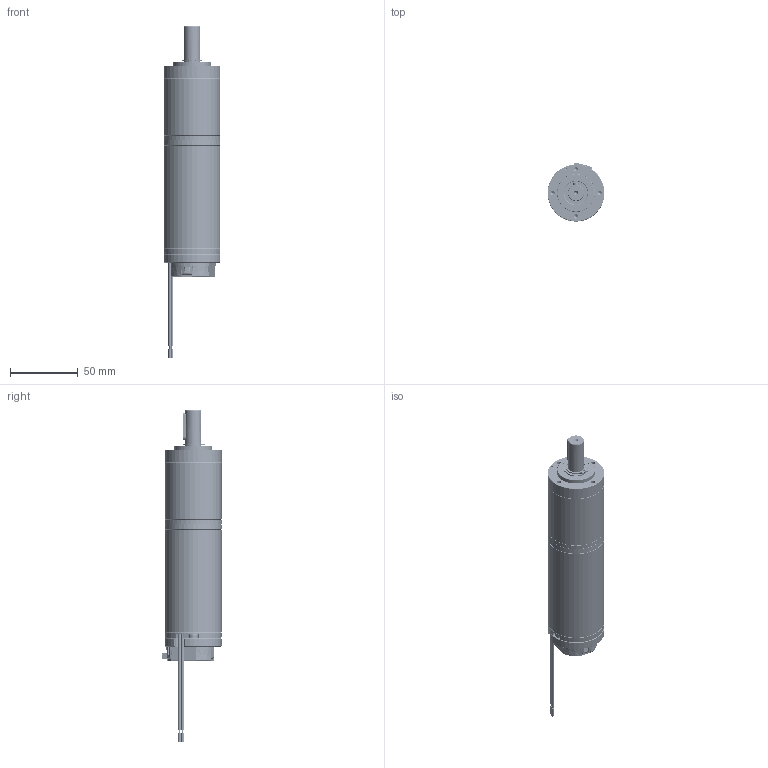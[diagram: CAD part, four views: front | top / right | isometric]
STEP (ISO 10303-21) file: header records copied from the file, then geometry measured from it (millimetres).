
FILE_DESCRIPTION (( 'STEP AP214' ), '1' );
FILE_NAME ('BRx42-40-PGx42 (2 Stage) - Diff Encoder.STEP', '2025-05-13T07:23:04', ( '' ), ( '' ), 'SwSTEP 2.0', 'SolidWorks 2023', '' );
FILE_SCHEMA (( 'AUTOMOTIVE_DESIGN' ));
Length unit declared in the file: millimetre
Products named in the file (1): BRx42-40-PGx42 (2 Stage) - Diff Encoder
Bounding box: 42 x 43.94 x 245.65 mm (x, y, z)
Volume: 124638.6 mm3; surface area: 76665.6 mm2
Topology: 33 solids, 35 shells, 7969 faces, 21073 edges, 13853 vertices
Faces by surface type: plane 5184, cylinder 1796, cone 496, torus 242, bspline 227, sphere 24
Entity records: 346219 total; most frequent: CARTESIAN_POINT 58939, ORIENTED_EDGE 42096, DIRECTION 40174, EDGE_CURVE 21048, LINE 14812, VECTOR 14812, VERTEX_POINT 13853, AXIS2_PLACEMENT_3D 12681
